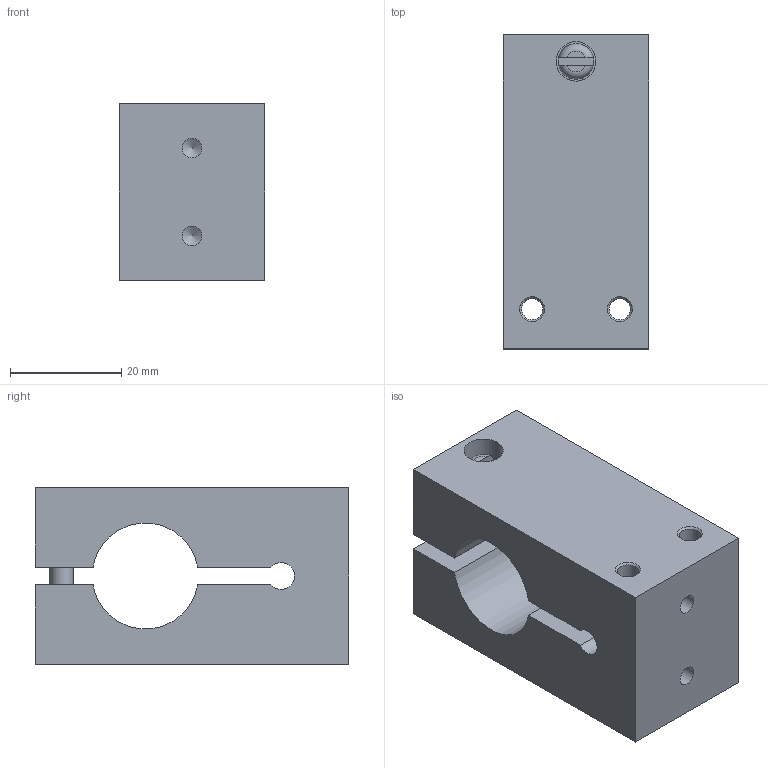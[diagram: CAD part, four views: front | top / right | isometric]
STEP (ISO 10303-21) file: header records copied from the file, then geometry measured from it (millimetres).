
FILE_DESCRIPTION(/* description */ (''),/* implementation_level */ '2;1');
FILE_NAME(/* name */ 'A:\CAD Drawings\LVDT\3D\Accessories\LVDT-MTD-750-DEL\LVDT-MTD-750 Phenolic.stp',/* time_stamp */ '2020-05-01T18:18:02-04:00',/* author */ ('Justin'),/* organization */ (''),/* preprocessor_version */ 'ST-DEVELOPER v18.1',/* originating_system */ 'Autodesk Inventor 2021',/* authorisation */ '');
FILE_SCHEMA (('AUTOMOTIVE_DESIGN { 1 0 10303 214 3 1 1 }'));
Length unit declared in the file: inch
Products named in the file (3): LVDT-MTD-750 Phenolic; LVDT-MTD-750; #1437
Assembly tree (2 placements, depth 2):
  LVDT-MTD-750 Phenolic
    LVDT-MTD-750
    #1437
Bounding box: 26.16 x 56.39 x 31.75 mm (x, y, z)
Volume: 35922.5 mm3; surface area: 12057.9 mm2
Topology: 2 solids, 2 shells, 40 faces, 107 edges, 73 vertices
Faces by surface type: plane 19, cylinder 12, cone 7, torus 2
Full cylindrical faces by diameter (mm): 3.505 x2, 3.81 x2, 4.166 x2, 4.318 x1, 6.35 x1, 7.112 x1
Entity records: 1428 total; most frequent: CARTESIAN_POINT 259, DIRECTION 238, ORIENTED_EDGE 210, EDGE_CURVE 105, AXIS2_PLACEMENT_3D 92, VERTEX_POINT 73, LINE 54, VECTOR 54
